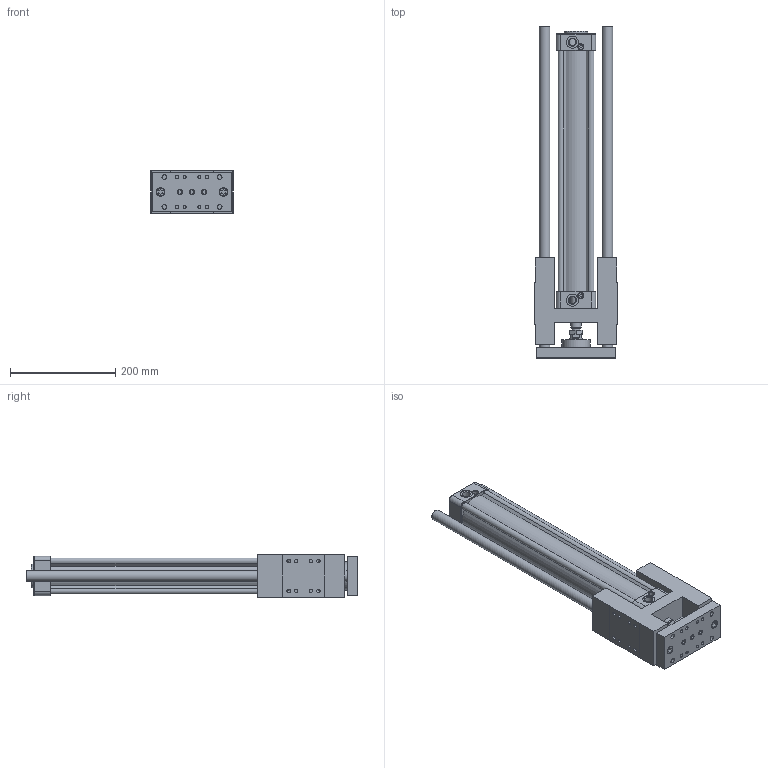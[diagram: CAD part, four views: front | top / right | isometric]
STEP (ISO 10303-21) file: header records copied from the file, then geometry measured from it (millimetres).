
FILE_DESCRIPTION((''),'2;1');
FILE_NAME('I:\3D電子目錄\氣缸\GHB(U)\GHB(U)\GHB(U)63\GHB(U)63x400.stp','2007-10-22T13:15:10',('Administrator'),(''),'Autodesk Inventor 11','Autodesk Inventor 11','');
FILE_SCHEMA(('AUTOMOTIVE_DESIGN { 1 0 10303 214 1 1 1 1 }'));
Length unit declared in the file: millimetre
Products named in the file (1): GHB(U)63
Bounding box: 156 x 630 x 80 mm (x, y, z)
Volume: 2362466.4 mm3; surface area: 560207.1 mm2
Topology: 1 solids, 13 shells, 789 faces, 1754 edges, 1088 vertices
Faces by surface type: plane 303, bspline 237, cylinder 159, cone 88, torus 2
Full cylindrical faces by diameter (mm): 2.5 x2, 6 x4, 6.647 x4, 6.7 x2, 6.75 x4, 7.25 x4, 7.4 x4, 7.5 x2, 8.5 x9, 9 x2, 9.8 x4, 10 x5, 11.5 x1, 11.9 x1, 12 x3, 13 x4, 14 x8, 14.5 x2, 16 x3, 20 x4, 23 x3, 25 x1, 26 x2, 45 x1, 54 x1, 63 x1
Entity records: 22867 total; most frequent: CARTESIAN_POINT 7086, DIRECTION 3132, ORIENTED_EDGE 3076, EDGE_CURVE 1538, AXIS2_PLACEMENT_3D 1207, EDGE_LOOP 1075, VERTEX_POINT 1047, FACE_OUTER_BOUND 789
